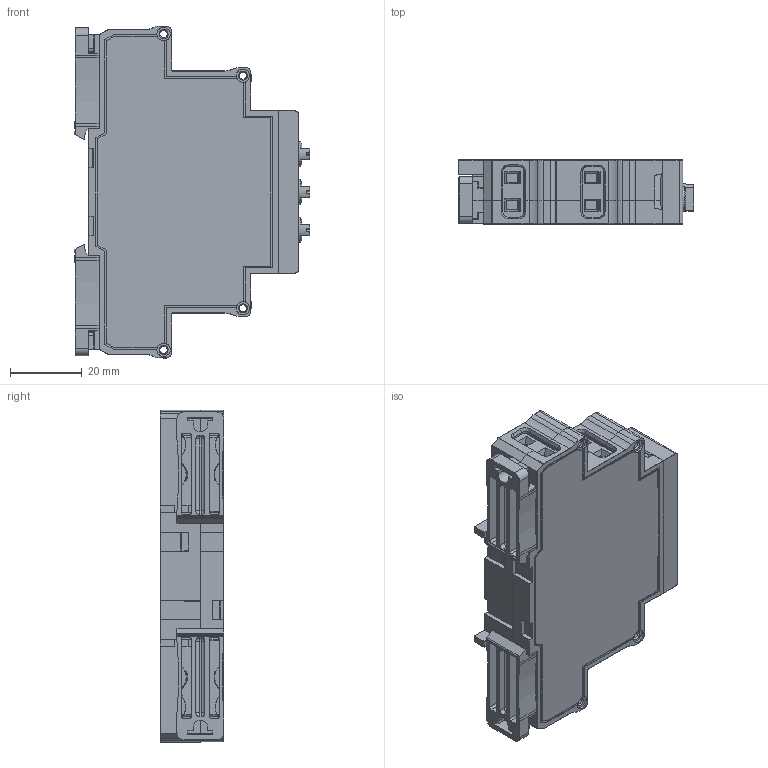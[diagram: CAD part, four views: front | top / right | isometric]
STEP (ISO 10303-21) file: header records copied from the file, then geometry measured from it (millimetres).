
FILE_DESCRIPTION(('STEP AP214'), '1');
FILE_NAME('ﾑ碚濱ﾐﾊﾍ-3-15-15', '', ('UNSPECIFIED'), ('UNSPECIFIED'), 'C3D Converter', 'C3D Toolkit', '');
FILE_SCHEMA(('AUTOMOTIVE_DESIGN { 1 0 10303 214 3 1 1}'));
Length unit declared in the file: millimetre
Products named in the file (17): Case_UC1-2sR-2024_SimpleModel_6mm; Case_UC1-2sR-2024_SimpleModel_11mm; Case_UC1-2sR_Face_2024_18mm__FR.FP.0000010; Case13-18-23mm_2step_Lock_v01a_Build20140909_1552; DG128-5.08_Configurable_5.08x3; R-knob_2017_Hex2mm__Џｮ гｬｮｫзｭЁо; РКН-3-15-15 mark L2-L3; РКН-3-15-15 mark L1-N; РКН-3-15-15 mark 12-11-14; РКН-3-15-15 mark 22-21-24
Assembly tree (24 placements, depth 2):
  (unnamed)
    Case_UC1-2sR-2024_SimpleModel_6mm
    Case_UC1-2sR-2024_SimpleModel_11mm
    Case_UC1-2sR_Face_2024_18mm__FR.FP.0000010
    Case13-18-23mm_2step_Lock_v01a_Build20140909_1552  x2
    (unnamed)  x2
    DG128-5.08_Configurable_5.08x3  x2
    R-knob_2017_Hex2mm__Џｮ гｬｮｫзｭЁо  x3
    (unnamed)  x3
    (unnamed)  x2
    (unnamed)
    РКН-3-15-15 mark L2-L3
    РКН-3-15-15 mark L1-N
    РКН-3-15-15 mark 12-11-14
    РКН-3-15-15 mark 22-21-24
    (unnamed)
    (unnamed)
Bounding box: 65.63 x 17.75 x 92.4 mm (x, y, z)
Volume: 26543.8 mm3; surface area: 38360.9 mm2
Topology: 51 solids, 51 shells, 3693 faces, 10141 edges, 6559 vertices
Faces by surface type: plane 2829, cylinder 426, extrusion 127, torus 120, bspline 88, cone 67, sphere 36
Full cylindrical faces by diameter (mm): 1.238 x6, 2.1 x14, 2.2 x6, 3.7 x8, 3.9 x10, 4.5 x3, 5 x3
Entity records: 136266 total; most frequent: CARTESIAN_POINT 25551, ORIENTED_EDGE 18266, DIRECTION 15716, EDGE_CURVE 9133, VECTOR 7750, LINE 7623, VERTEX_POINT 5982, AXIS2_PLACEMENT_3D 3983
